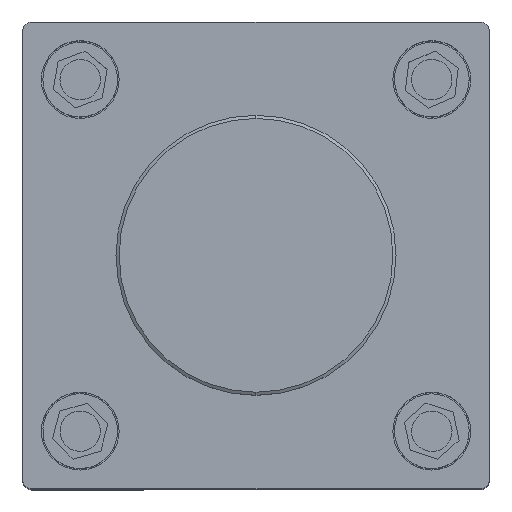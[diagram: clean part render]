
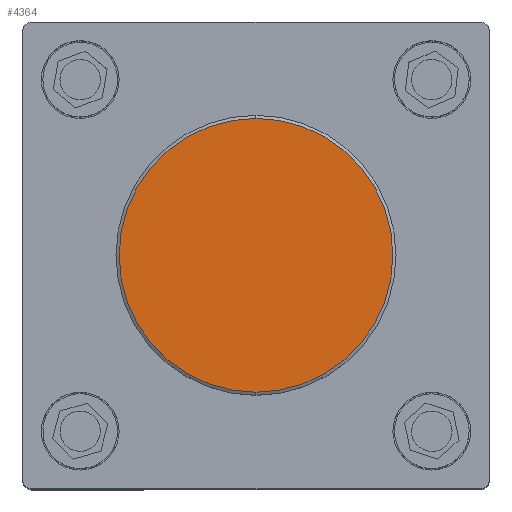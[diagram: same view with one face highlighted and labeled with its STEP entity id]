
A CAD part, top view. The second image highlights one B-rep face of the part: STEP entity #4364.
In plain terms, the highlighted planar face has unit normal (0, 0, 1).
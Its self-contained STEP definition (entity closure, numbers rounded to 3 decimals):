
#172 = EDGE_LOOP ( 'NONE', ( #5355, #5104 ) ) ;
#632 = CARTESIAN_POINT ( 'NONE',  ( 0., 22., 35.5 ) ) ;
#877 = AXIS2_PLACEMENT_3D ( 'NONE', #932, #2182, #6379 ) ;
#932 = CARTESIAN_POINT ( 'NONE',  ( 0., 22., 35.5 ) ) ;
#1425 = VERTEX_POINT ( 'NONE', #632 ) ;
#2182 = DIRECTION ( 'NONE',  ( 0., 0., 1. ) ) ;
#2363 = FACE_OUTER_BOUND ( 'NONE', #172, .T. ) ;
#2599 = VERTEX_POINT ( 'NONE', #3548 ) ;
#2722 = CARTESIAN_POINT ( 'NONE',  ( 0., 0., 35.5 ) ) ;
#3345 = DIRECTION ( 'NONE',  ( 0., 1., 0. ) ) ;
#3398 = PLANE ( 'NONE',  #877 ) ;
#3424 = DIRECTION ( 'NONE',  ( 0., 0., -1. ) ) ;
#3548 = CARTESIAN_POINT ( 'NONE',  ( 0., -22., 35.5 ) ) ;
#4364 = ADVANCED_FACE ( 'NONE', ( #2363 ), #3398, .T. ) ;
#4531 = CIRCLE ( 'NONE', #5739, 22. ) ;
#5104 = ORIENTED_EDGE ( 'NONE', *, *, #6882, .F. ) ;
#5355 = ORIENTED_EDGE ( 'NONE', *, *, #7627, .F. ) ;
#5672 = CIRCLE ( 'NONE', #6933, 22. ) ;
#5739 = AXIS2_PLACEMENT_3D ( 'NONE', #6981, #3424, #7575 ) ;
#6379 = DIRECTION ( 'NONE',  ( 0., -1., 0. ) ) ;
#6882 = EDGE_CURVE ( 'NONE', #2599, #1425, #5672, .T. ) ;
#6904 = DIRECTION ( 'NONE',  ( 0., 0., -1. ) ) ;
#6933 = AXIS2_PLACEMENT_3D ( 'NONE', #2722, #6904, #3345 ) ;
#6981 = CARTESIAN_POINT ( 'NONE',  ( 0., 0., 35.5 ) ) ;
#7575 = DIRECTION ( 'NONE',  ( 0., 1., 0. ) ) ;
#7627 = EDGE_CURVE ( 'NONE', #1425, #2599, #4531, .T. ) ;
